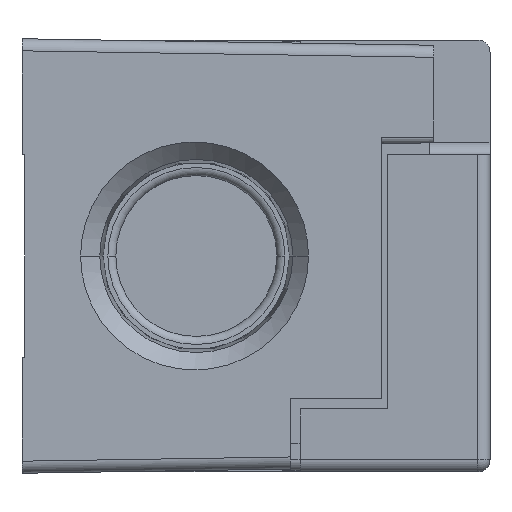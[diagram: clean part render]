
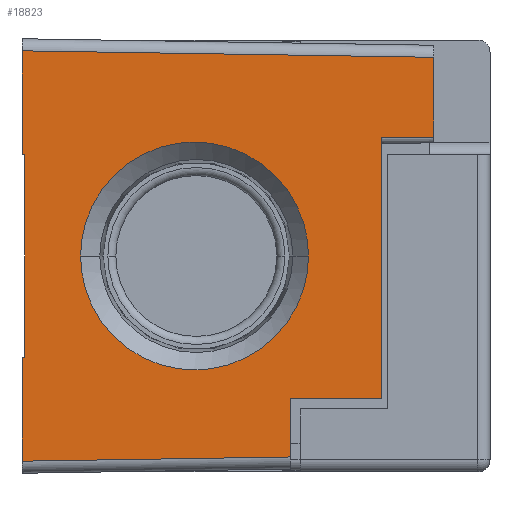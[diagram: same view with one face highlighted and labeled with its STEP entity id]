
A CAD part, front view. The second image highlights one B-rep face of the part: STEP entity #18823.
In plain terms, the highlighted planar face has unit normal (0.016, -1, 0).
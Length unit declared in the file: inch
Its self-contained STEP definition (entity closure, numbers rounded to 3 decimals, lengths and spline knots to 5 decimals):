
#14408=CARTESIAN_POINT('',(0.161,-3.18829,-0.7493));
#14418=DIRECTION('',(0.,0.,1.));
#14419=VECTOR('',#14418,0.2193);
#14420=CARTESIAN_POINT('',(0.161,-3.18829,-0.7493));
#14421=LINE('',#14420,#14419);
#14738=DIRECTION('',(0.,0.,1.));
#14739=VECTOR('',#14738,0.973);
#14740=CARTESIAN_POINT('',(0.501,-3.18295,-0.53));
#14741=LINE('',#14740,#14739);
#14746=DIRECTION('',(1.,0.016,0.));
#14747=VECTOR('',#14746,0.34004);
#14748=CARTESIAN_POINT('',(0.161,-3.18829,-0.53));
#14749=LINE('',#14748,#14747);
#14750=DIRECTION('',(-1.,-0.016,0.016));
#14751=VECTOR('',#14750,1.53538);
#14752=CARTESIAN_POINT('',(0.696,-3.17989,0.74089));
#14753=LINE('',#14752,#14751);
#14754=DIRECTION('',(1.,0.016,0.016));
#14755=VECTOR('',#14754,1.00025);
#14756=CARTESIAN_POINT('',(-0.839,-3.204,-0.76501));
#14757=LINE('',#14756,#14755);
#14758=DIRECTION('',(1.,0.016,0.));
#14759=VECTOR('',#14758,0.01);
#14760=CARTESIAN_POINT('',(-0.839,-3.204,-0.378));
#14761=LINE('',#14760,#14759);
#14762=DIRECTION('',(0.,0.,1.));
#14763=VECTOR('',#14762,0.756);
#14764=CARTESIAN_POINT('',(-0.829,-3.20384,-0.378));
#14765=LINE('',#14764,#14763);
#14766=DIRECTION('',(1.,0.016,0.));
#14767=VECTOR('',#14766,0.01);
#14768=CARTESIAN_POINT('',(-0.839,-3.204,0.378));
#14769=LINE('',#14768,#14767);
#14770=CARTESIAN_POINT('',(0.22922,-3.18722,0.));
#14771=CARTESIAN_POINT('',(0.22922,-3.18722,
-0.02503));
#14772=CARTESIAN_POINT('',(0.22477,-3.18729,
-0.07698));
#14773=CARTESIAN_POINT('',(0.20223,-3.18764,
-0.15686));
#14774=CARTESIAN_POINT('',(0.16265,-3.18826,
-0.23386));
#14775=CARTESIAN_POINT('',(0.10694,-3.18914,
-0.30258));
#14776=CARTESIAN_POINT('',(0.03821,-3.19022,
-0.35828));
#14777=CARTESIAN_POINT('',(-0.02595,-3.19123,
-0.39125));
#14778=CARTESIAN_POINT('',(-0.07874,-3.19206,
-0.40913));
#14779=CARTESIAN_POINT('',(-0.11844,-3.19268,
-0.41841));
#14780=CARTESIAN_POINT('',(-0.15111,-3.19319,
-0.42285));
#14781=CARTESIAN_POINT('',(-0.1768,-3.1936,
-0.42456));
#14782=CARTESIAN_POINT('',(-0.19567,-3.19389,
-0.42498));
#14783=CARTESIAN_POINT('',(-0.21455,-3.19419,
-0.42456));
#14784=CARTESIAN_POINT('',(-0.24024,-3.19459,
-0.42285));
#14785=CARTESIAN_POINT('',(-0.27291,-3.19511,
-0.41841));
#14786=CARTESIAN_POINT('',(-0.31261,-3.19573,
-0.40913));
#14787=CARTESIAN_POINT('',(-0.36539,-3.19656,
-0.39125));
#14788=CARTESIAN_POINT('',(-0.42956,-3.19757,
-0.35828));
#14789=CARTESIAN_POINT('',(-0.49829,-3.19865,
-0.30258));
#14790=CARTESIAN_POINT('',(-0.554,-3.19952,
-0.23386));
#14791=CARTESIAN_POINT('',(-0.59357,-3.20014,
-0.15686));
#14792=CARTESIAN_POINT('',(-0.61612,-3.2005,
-0.07698));
#14793=CARTESIAN_POINT('',(-0.62057,-3.20057,
-0.02503));
#14794=CARTESIAN_POINT('',(-0.62057,-3.20057,0.));
#14796=CARTESIAN_POINT('',(-0.62057,-3.20057,0.));
#14797=CARTESIAN_POINT('',(-0.62057,-3.20057,
0.02503));
#14798=CARTESIAN_POINT('',(-0.61612,-3.2005,
0.07698));
#14799=CARTESIAN_POINT('',(-0.59357,-3.20014,
0.15686));
#14800=CARTESIAN_POINT('',(-0.554,-3.19952,
0.23386));
#14801=CARTESIAN_POINT('',(-0.49829,-3.19865,
0.30258));
#14802=CARTESIAN_POINT('',(-0.42956,-3.19757,
0.35828));
#14803=CARTESIAN_POINT('',(-0.36539,-3.19656,
0.39125));
#14804=CARTESIAN_POINT('',(-0.31261,-3.19573,
0.40913));
#14805=CARTESIAN_POINT('',(-0.27291,-3.19511,
0.41841));
#14806=CARTESIAN_POINT('',(-0.24024,-3.19459,
0.42285));
#14807=CARTESIAN_POINT('',(-0.21455,-3.19419,
0.42456));
#14808=CARTESIAN_POINT('',(-0.19567,-3.19389,
0.42498));
#14809=CARTESIAN_POINT('',(-0.1768,-3.1936,
0.42456));
#14810=CARTESIAN_POINT('',(-0.15111,-3.19319,
0.42285));
#14811=CARTESIAN_POINT('',(-0.11844,-3.19268,
0.41841));
#14812=CARTESIAN_POINT('',(-0.07874,-3.19206,
0.40913));
#14813=CARTESIAN_POINT('',(-0.02595,-3.19123,
0.39125));
#14814=CARTESIAN_POINT('',(0.03821,-3.19022,
0.35828));
#14815=CARTESIAN_POINT('',(0.10694,-3.18914,
0.30258));
#14816=CARTESIAN_POINT('',(0.16265,-3.18826,
0.23386));
#14817=CARTESIAN_POINT('',(0.20223,-3.18764,
0.15686));
#14818=CARTESIAN_POINT('',(0.22477,-3.18729,
0.07698));
#14819=CARTESIAN_POINT('',(0.22922,-3.18722,
0.02503));
#14820=CARTESIAN_POINT('',(0.22922,-3.18722,0.));
#14822=CARTESIAN_POINT('',(-0.839,-3.204,0.76501));
#14832=DIRECTION('',(0.,0.,1.));
#14833=VECTOR('',#14832,0.38701);
#14834=CARTESIAN_POINT('',(-0.839,-3.204,0.378));
#14835=LINE('',#14834,#14833);
#15336=CARTESIAN_POINT('',(0.696,-3.17989,0.74089));
#15365=DIRECTION('',(0.,0.,-1.));
#15366=VECTOR('',#15365,0.29789);
#15367=CARTESIAN_POINT('',(0.696,-3.17989,0.74089));
#15368=LINE('',#15367,#15366);
#15428=DIRECTION('',(1.,0.016,0.));
#15429=VECTOR('',#15428,0.19502);
#15430=CARTESIAN_POINT('',(0.501,-3.18295,0.443));
#15431=LINE('',#15430,#15429);
#15564=CARTESIAN_POINT('',(-0.839,-3.204,-0.76501));
#15583=DIRECTION('',(0.,0.,1.));
#15584=VECTOR('',#15583,0.38701);
#15585=CARTESIAN_POINT('',(-0.839,-3.204,-0.76501));
#15586=LINE('',#15585,#15584);
#16764=CARTESIAN_POINT('',(0.22922,-3.18722,0.));
#16765=VERTEX_POINT('',#16764);
#16766=CARTESIAN_POINT('',(-0.62057,-3.20057,0.));
#16767=VERTEX_POINT('',#16766);
#16769=CARTESIAN_POINT('',(0.501,-3.18295,0.443));
#16771=VERTEX_POINT('',#16769);
#16778=CARTESIAN_POINT('',(0.696,-3.17989,0.443));
#16779=VERTEX_POINT('',#16778);
#16780=CARTESIAN_POINT('',(0.501,-3.18295,-0.53));
#16781=VERTEX_POINT('',#16780);
#16788=CARTESIAN_POINT('',(0.161,-3.18829,-0.53));
#16789=VERTEX_POINT('',#16788);
#16792=VERTEX_POINT('',#14822);
#16796=VERTEX_POINT('',#15336);
#16797=VERTEX_POINT('',#14408);
#16801=VERTEX_POINT('',#15564);
#16854=CARTESIAN_POINT('',(-0.839,-3.204,-0.378));
#16855=VERTEX_POINT('',#16854);
#16856=CARTESIAN_POINT('',(-0.839,-3.204,0.378));
#16858=VERTEX_POINT('',#16856);
#16876=CARTESIAN_POINT('',(-0.829,-3.20384,-0.378));
#16877=CARTESIAN_POINT('',(-0.829,-3.20384,0.378));
#16878=VERTEX_POINT('',#16876);
#16879=VERTEX_POINT('',#16877);
#18789=CARTESIAN_POINT('',(-0.839,-3.204,-1.85443));
#18790=DIRECTION('',(0.016,-1.,0.));
#18791=DIRECTION('',(0.,0.,1.));
#18792=AXIS2_PLACEMENT_3D('',#18789,#18790,#18791);
#18793=PLANE('',#18792);
#18795=ORIENTED_EDGE('',*,*,#18794,.F.);
#18797=ORIENTED_EDGE('',*,*,#18796,.T.);
#18799=ORIENTED_EDGE('',*,*,#18798,.F.);
#18800=ORIENTED_EDGE('',*,*,#18768,.F.);
#18801=ORIENTED_EDGE('',*,*,#18783,.F.);
#18802=ORIENTED_EDGE('',*,*,#18304,.F.);
#18804=ORIENTED_EDGE('',*,*,#18803,.F.);
#18806=ORIENTED_EDGE('',*,*,#18805,.T.);
#18808=ORIENTED_EDGE('',*,*,#18807,.T.);
#18810=ORIENTED_EDGE('',*,*,#18809,.T.);
#18812=ORIENTED_EDGE('',*,*,#18811,.F.);
#18814=ORIENTED_EDGE('',*,*,#18813,.T.);
#18815=EDGE_LOOP('',(#18795,#18797,#18799,#18800,#18801,#18802,#18804,#18806,
#18808,#18810,#18812,#18814));
#18816=FACE_OUTER_BOUND('',#18815,.F.);
#18818=ORIENTED_EDGE('',*,*,#18817,.F.);
#18820=ORIENTED_EDGE('',*,*,#18819,.F.);
#18821=EDGE_LOOP('',(#18818,#18820));
#18822=FACE_BOUND('',#18821,.F.);
#18823=ADVANCED_FACE('',(#18816,#18822),#18793,.T.);
#14795=B_SPLINE_CURVE_WITH_KNOTS('',3,(#14770,#14771,#14772,#14773,#14774,
#14775,#14776,#14777,#14778,#14779,#14780,#14781,#14782,#14783,#14784,#14785,
#14786,#14787,#14788,#14789,#14790,#14791,#14792,#14793,#14794),.UNSPECIFIED.,
.F.,.F.,(4,1,1,1,1,1,1,1,1,1,1,1,1,1,1,1,1,1,1,1,1,1,4),(0.,0.0625,0.125,
0.1875,0.25,0.3125,0.375,0.40625,0.4375,0.46875,0.48438,0.5,
0.51563,0.53125,0.5625,0.59375,0.625,0.6875,0.75,0.8125,
0.875,0.9375,1.),.UNSPECIFIED.);
#14821=B_SPLINE_CURVE_WITH_KNOTS('',3,(#14796,#14797,#14798,#14799,#14800,
#14801,#14802,#14803,#14804,#14805,#14806,#14807,#14808,#14809,#14810,#14811,
#14812,#14813,#14814,#14815,#14816,#14817,#14818,#14819,#14820),.UNSPECIFIED.,
.F.,.F.,(4,1,1,1,1,1,1,1,1,1,1,1,1,1,1,1,1,1,1,1,1,1,4),(0.,0.0625,0.125,
0.1875,0.25,0.3125,0.375,0.40625,0.4375,0.46875,0.48438,0.5,
0.51563,0.53125,0.5625,0.59375,0.625,0.6875,0.75,0.8125,
0.875,0.9375,1.),.UNSPECIFIED.);
#18304=EDGE_CURVE('',#16797,#16789,#14421,.T.);
#18768=EDGE_CURVE('',#16781,#16771,#14741,.T.);
#18783=EDGE_CURVE('',#16789,#16781,#14749,.T.);
#18794=EDGE_CURVE('',#16796,#16792,#14753,.T.);
#18796=EDGE_CURVE('',#16796,#16779,#15368,.T.);
#18798=EDGE_CURVE('',#16771,#16779,#15431,.T.);
#18803=EDGE_CURVE('',#16801,#16797,#14757,.T.);
#18805=EDGE_CURVE('',#16801,#16855,#15586,.T.);
#18807=EDGE_CURVE('',#16855,#16878,#14761,.T.);
#18809=EDGE_CURVE('',#16878,#16879,#14765,.T.);
#18811=EDGE_CURVE('',#16858,#16879,#14769,.T.);
#18813=EDGE_CURVE('',#16858,#16792,#14835,.T.);
#18817=EDGE_CURVE('',#16765,#16767,#14795,.T.);
#18819=EDGE_CURVE('',#16767,#16765,#14821,.T.);
